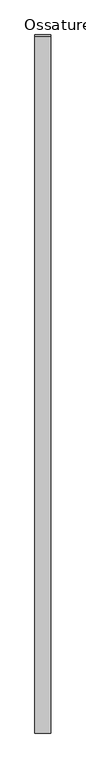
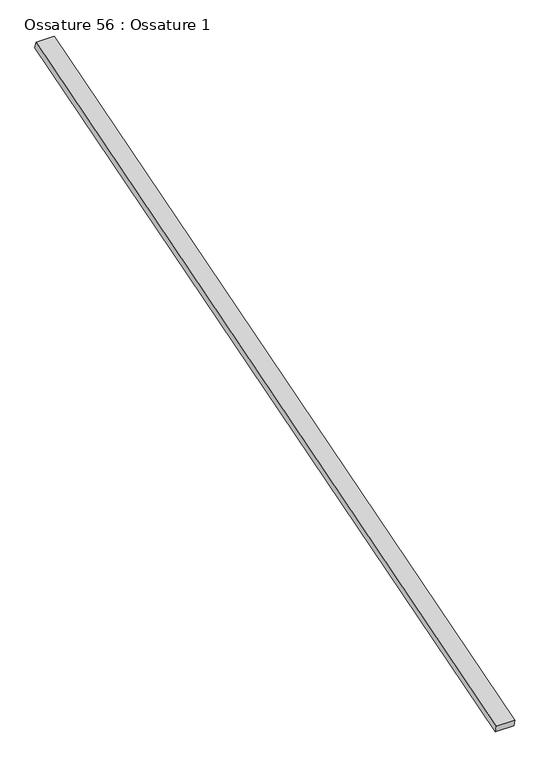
"""IFC4 building model written with IfcOpenShell, lengths in millimetres: beam geometry, Ossature 56 : Ossature 1."""

from ifc_helpers import new_model, si_unit, frame, origin, place, context, project, spatial, polyline, outline, extrude, source, transform, mapped, element, save


def ossature_56_ossature_1_9401e27f(model_context):
    return source(origin(), model_context, "Body", "SweptSolid", [
        extrude(outline(polyline([(0.0, 0.0), (0.0, -4543.0299679), (-100.0, -4543.0299679), (-100.0, 0.0), (0.0, 0.0)])), frame((13632.4466393, -833.3913565, 8153.6336115), z_axis=(0.0, -0.28734788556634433, 0.9578262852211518), x_axis=(-1.0, 0.0, 0.0)), (0.0, 0.0, 1.0), 40.0),
    ])


if __name__ == "__main__":
    model = new_model("IFC4")
    model_context = context("Model", 3, world=origin())
    ifc_project = project(units=[si_unit("LENGTHUNIT", "METRE", prefix="MILLI")], contexts=[model_context])
    site = spatial("IfcSite", under=ifc_project)
    building = spatial("IfcBuilding", under=site)
    placement = place(None, origin())
    ossature_56_ossature_1_shape = ossature_56_ossature_1_9401e27f(model_context)
    element("IfcBeam", 1, ObjectType="Ossature 56 : Ossature 1", at=placement, inside=building, context=model_context, shape_type="MappedRepresentation", body=[
        mapped(ossature_56_ossature_1_shape, transform((0.0, 0.0, 0.0), x_axis=(1.0, 0.0, 0.0), y_axis=(0.0, 1.0, 0.0), z_axis=(0.0, 0.0, 1.0))),
    ])
    save(model, "model.ifc")
